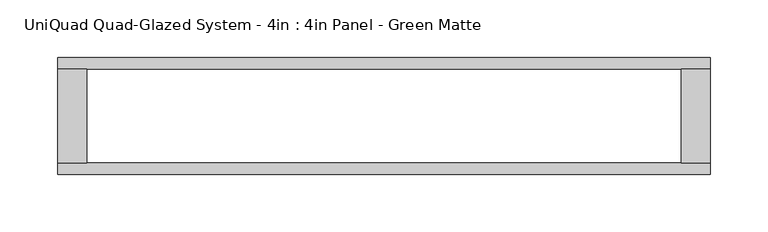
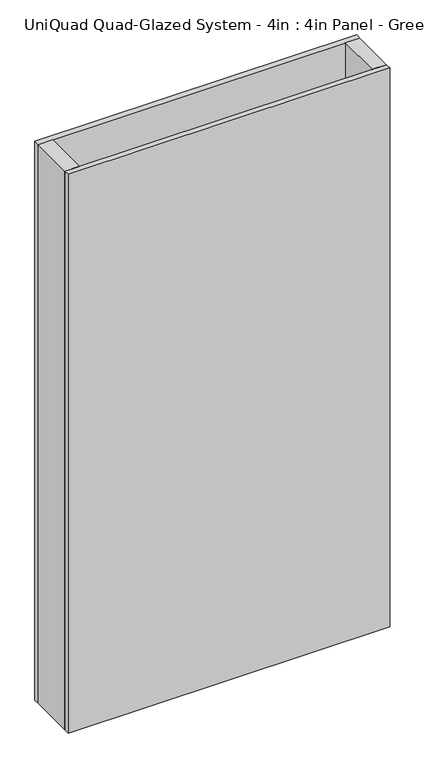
"""IFC4 building model written with IfcOpenShell, lengths in millimetres: plate geometry, UniQuad Quad-Glazed System - 4in : 4in Panel - Green Matte."""

from ifc_helpers import new_model, si_unit, origin, origin_with_axes, place, context, project, spatial, polyline, outline, extrude, source, transform, mapped, element, save


def uniquad_quad_glazed_system_4in_4in_panel_green_matte_f2a2bc47(model_context):
    return source(origin(), model_context, "Body", "SweptSolid", [
        extrude(outline(polyline([(-283.5302411, 40.7924), (-258.1302411, 40.7924), (-258.1302411, -40.7924), (-283.5302411, -40.7924), (-283.5302411, 40.7924)])), origin_with_axes(), (0.0, 0.0, 1.0), 1041.4),
        extrude(outline(polyline([(283.5302411, 40.7924), (283.5302411, -40.7924), (258.1302411, -40.7924), (258.1302411, 40.7924), (283.5302411, 40.7924)])), origin_with_axes(), (0.0, 0.0, 1.0), 1041.4),
        extrude(outline(polyline([(283.5302411, -40.7924), (283.5302411, -50.8), (-283.5302411, -50.8), (-283.5302411, -40.7924), (283.5302411, -40.7924)])), origin_with_axes(), (0.0, 0.0, 1.0), 1041.4),
        extrude(outline(polyline([(283.5302411, 50.8), (283.5302411, 40.7924), (-283.5302411, 40.7924), (-283.5302411, 50.8), (283.5302411, 50.8)])), origin_with_axes(), (0.0, 0.0, 1.0), 1041.4),
    ])


if __name__ == "__main__":
    model = new_model("IFC4")
    model_context = context("Model", 3, world=origin())
    ifc_project = project(units=[si_unit("LENGTHUNIT", "METRE", prefix="MILLI")], contexts=[model_context])
    site = spatial("IfcSite", under=ifc_project)
    building = spatial("IfcBuilding", under=site)
    placement = place(None, origin())
    uniquad_quad_glazed_system_4in_4in_panel_green_matte_shape = uniquad_quad_glazed_system_4in_4in_panel_green_matte_f2a2bc47(model_context)
    element("IfcPlate", 1, ObjectType="UniQuad Quad-Glazed System - 4in : 4in Panel - Green Matte", at=placement, inside=building, context=model_context, shape_type="MappedRepresentation", body=[
        mapped(uniquad_quad_glazed_system_4in_4in_panel_green_matte_shape, transform((0.0, 0.0, 0.0), x_axis=(1.0, 0.0, 0.0), y_axis=(0.0, 1.0, 0.0), z_axis=(0.0, 0.0, 1.0))),
    ])
    save(model, "model.ifc")
